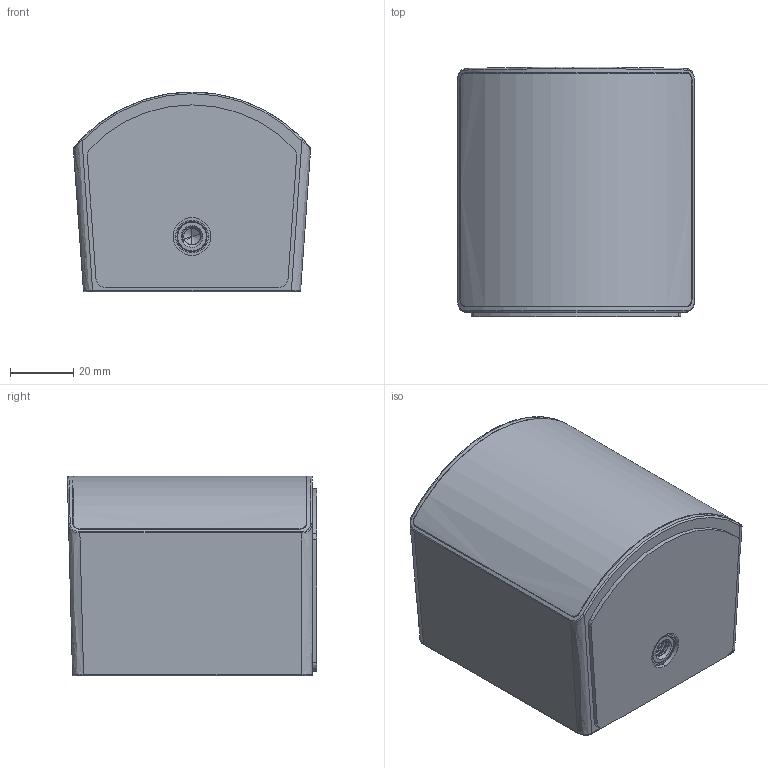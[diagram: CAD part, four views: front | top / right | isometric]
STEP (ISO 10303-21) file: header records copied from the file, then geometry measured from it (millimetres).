
FILE_DESCRIPTION(/* description */ ('PARTNAME'),/* implementation_level */ '2;1');
FILE_NAME(/* name */ 'bs_outer_geometry.stp',/* time_stamp */ '2019-05-21T16:54:04-07:00',/* author */ ('LUCASW'),/* organization */ ('VALVE'),/* preprocessor_version */ 'ST-DEVELOPER v16.7',/* originating_system */ 'SIEMENS PLM Software NX 12.0',/* authorisation */ '');
FILE_SCHEMA (('AUTOMOTIVE_DESIGN { 1 0 10303 214 3 1 1 1 }'));
Length unit declared in the file: millimetre
Products named in the file (1): luca52D48767vn12
Bounding box: 74.8 x 78.61 x 63.06 mm (x, y, z)
Volume: 69345.5 mm3; surface area: 66400.6 mm2
Topology: 14 solids, 14 shells, 894 faces, 2472 edges, 1610 vertices
Faces by surface type: bspline 377, cylinder 285, plane 141, cone 54, torus 17, extrusion 16, sphere 4
Entity records: 56832 total; most frequent: CARTESIAN_POINT 37363, ORIENTED_EDGE 4920, DIRECTION 2640, EDGE_CURVE 2460, VERTEX_POINT 1610, B_SPLINE_CURVE_WITH_KNOTS 1406, AXIS2_PLACEMENT_3D 1058, EDGE_LOOP 932
